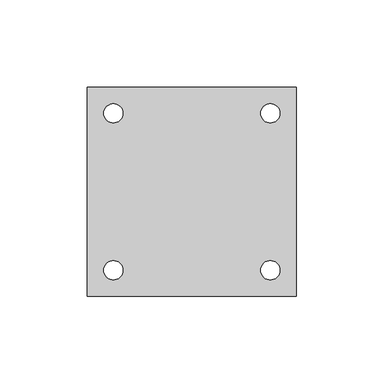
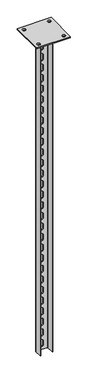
"""IFC4 building model written with IfcOpenShell, lengths in millimetres: proxy geometry, КМ Профиль_Стойка потолочная усиленная PSTU : PSTU1200."""

from ifc_helpers import new_model, si_unit, point, frame, frame_2d, origin, place, context, project, spatial, polyline, circle_curve, trimmed, segment, composite_curve, outline, extrude, source, transform, mapped, element, save
from ifc_brep_helpers import plane_surface, cylinder_surface, revolved_surface, advanced_brep


def generic_models_236f3ef3(model_context):
    return source(origin(), model_context, "Body", "SolidModel", [
        advanced_brep(
        [(22.5, -15.0, -4.0), (22.5, 11.0, -4.0), (18.5, 15.0, -4.0), (-18.5, 15.0, -4.0), (-22.5, 11.0, -4.0), (-22.5, -15.0, -4.0), (-20.5, -15.0, -4.0), (-20.5, 11.0, -4.0), (-18.5, 13.0, -4.0), (18.5, 13.0, -4.0), (20.5, 11.0, -4.0), (20.5, -15.0, -4.0), (22.5, 11.0, -1204.0), (22.5, -15.0, -1204.0), (20.5, -15.0, -1204.0), (20.5, 11.0, -1204.0), (18.5, 13.0, -1204.0), (-18.5, 13.0, -1204.0), (-20.5, 11.0, -1204.0), (-20.5, -15.0, -1204.0), (-22.5, -15.0, -1204.0), (-22.5, 11.0, -1204.0), (-18.5, 15.0, -1204.0), (18.5, 15.0, -1204.0), (-5.0, 15.0, -53.0), (-5.0, 15.0, -68.0), (5.0, 15.0, -68.0), (5.0, 15.0, -53.0), (-5.0, 15.0, -93.0), (-5.0, 15.0, -108.0), (5.0, 15.0, -108.0), (5.0, 15.0, -93.0), (-5.0, 15.0, -133.0), (-5.0, 15.0, -148.0), (5.0, 15.0, -148.0), (5.0, 15.0, -133.0), (-5.0, 15.0, -173.0), (-5.0, 15.0, -188.0), (5.0, 15.0, -188.0), (5.0, 15.0, -173.0), (-5.0, 15.0, -213.0), (-5.0, 15.0, -228.0), (5.0, 15.0, -228.0), (5.0, 15.0, -213.0), (-5.0, 15.0, -253.0), (-5.0, 15.0, -268.0), (5.0, 15.0, -268.0), (5.0, 15.0, -253.0), (-5.0, 15.0, -293.0), (-5.0, 15.0, -308.0), (5.0, 15.0, -308.0), (5.0, 15.0, -293.0), (-5.0, 15.0, -333.0), (-5.0, 15.0, -348.0), (5.0, 15.0, -348.0), (5.0, 15.0, -333.0), (-5.0, 15.0, -373.0), (-5.0, 15.0, -388.0), (5.0, 15.0, -388.0), (5.0, 15.0, -373.0), (-5.0, 15.0, -413.0), (-5.0, 15.0, -428.0), (5.0, 15.0, -428.0), (5.0, 15.0, -413.0), (-5.0, 15.0, -453.0), (-5.0, 15.0, -468.0), (5.0, 15.0, -468.0), (5.0, 15.0, -453.0), (-5.0, 15.0, -493.0), (-5.0, 15.0, -508.0), (5.0, 15.0, -508.0), (5.0, 15.0, -493.0), (-5.0, 15.0, -533.0), (-5.0, 15.0, -548.0), (5.0, 15.0, -548.0), (5.0, 15.0, -533.0), (-5.0, 15.0, -573.0), (-5.0, 15.0, -588.0), (5.0, 15.0, -588.0), (5.0, 15.0, -573.0), (-5.0, 15.0, -613.0), (-5.0, 15.0, -628.0), (5.0, 15.0, -628.0), (5.0, 15.0, -613.0), (-5.0, 15.0, -653.0), (-5.0, 15.0, -668.0), (5.0, 15.0, -668.0), (5.0, 15.0, -653.0), (-5.0, 15.0, -693.0), (-5.0, 15.0, -708.0), (5.0, 15.0, -708.0), (5.0, 15.0, -693.0), (-5.0, 15.0, -733.0), (-5.0, 15.0, -748.0), (5.0, 15.0, -748.0), (5.0, 15.0, -733.0), (-5.0, 15.0, -773.0), (-5.0, 15.0, -788.0), (5.0, 15.0, -788.0), (5.0, 15.0, -773.0), (-5.0, 15.0, -813.0), (-5.0, 15.0, -828.0), (5.0, 15.0, -828.0), (5.0, 15.0, -813.0), (-5.0, 15.0, -853.0), (-5.0, 15.0, -868.0), (5.0, 15.0, -868.0), (5.0, 15.0, -853.0), (-5.0, 15.0, -893.0), (-5.0, 15.0, -908.0), (5.0, 15.0, -908.0), (5.0, 15.0, -893.0), (-5.0, 15.0, -933.0), (-5.0, 15.0, -948.0), (5.0, 15.0, -948.0), (5.0, 15.0, -933.0), (-5.0, 15.0, -973.0), (-5.0, 15.0, -988.0), (5.0, 15.0, -988.0), (5.0, 15.0, -973.0), (-5.0, 15.0, -1013.0), (-5.0, 15.0, -1028.0), (5.0, 15.0, -1028.0), (5.0, 15.0, -1013.0), (-5.0, 15.0, -1053.0), (-5.0, 15.0, -1068.0), (5.0, 15.0, -1068.0), (5.0, 15.0, -1053.0), (-5.0, 15.0, -1093.0), (-5.0, 15.0, -1108.0), (5.0, 15.0, -1108.0), (5.0, 15.0, -1093.0), (-5.0, 15.0, -1133.0), (-5.0, 15.0, -1148.0), (5.0, 15.0, -1148.0), (5.0, 15.0, -1133.0), (-5.0, 15.0, -1173.0), (-5.0, 15.0, -1188.0), (5.0, 15.0, -1188.0), (5.0, 15.0, -1173.0), (-5.0, 15.0, -13.0), (-5.0, 15.0, -28.0), (5.0, 15.0, -28.0), (5.0, 15.0, -13.0), (-5.0, 13.0, -68.0), (-5.0, 13.0, -53.0), (5.0, 13.0, -53.0), (5.0, 13.0, -68.0), (-5.0, 13.0, -108.0), (-5.0, 13.0, -93.0), (5.0, 13.0, -93.0), (5.0, 13.0, -108.0), (-5.0, 13.0, -148.0), (-5.0, 13.0, -133.0), (5.0, 13.0, -133.0), (5.0, 13.0, -148.0), (-5.0, 13.0, -188.0), (-5.0, 13.0, -173.0), (5.0, 13.0, -173.0), (5.0, 13.0, -188.0), (-5.0, 13.0, -228.0), (-5.0, 13.0, -213.0), (5.0, 13.0, -213.0), (5.0, 13.0, -228.0), (-5.0, 13.0, -268.0), (-5.0, 13.0, -253.0), (5.0, 13.0, -253.0), (5.0, 13.0, -268.0), (-5.0, 13.0, -308.0), (-5.0, 13.0, -293.0), (5.0, 13.0, -293.0), (5.0, 13.0, -308.0), (-5.0, 13.0, -348.0), (-5.0, 13.0, -333.0), (5.0, 13.0, -333.0), (5.0, 13.0, -348.0), (-5.0, 13.0, -388.0), (-5.0, 13.0, -373.0), (5.0, 13.0, -373.0), (5.0, 13.0, -388.0), (-5.0, 13.0, -428.0), (-5.0, 13.0, -413.0), (5.0, 13.0, -413.0), (5.0, 13.0, -428.0), (-5.0, 13.0, -468.0), (-5.0, 13.0, -453.0), (5.0, 13.0, -453.0), (5.0, 13.0, -468.0), (-5.0, 13.0, -508.0), (-5.0, 13.0, -493.0), (5.0, 13.0, -493.0), (5.0, 13.0, -508.0), (-5.0, 13.0, -548.0), (-5.0, 13.0, -533.0), (5.0, 13.0, -533.0), (5.0, 13.0, -548.0), (-5.0, 13.0, -588.0), (-5.0, 13.0, -573.0), (5.0, 13.0, -573.0), (5.0, 13.0, -588.0), (-5.0, 13.0, -628.0), (-5.0, 13.0, -613.0), (5.0, 13.0, -613.0), (5.0, 13.0, -628.0), (-5.0, 13.0, -668.0), (-5.0, 13.0, -653.0), (5.0, 13.0, -653.0), (5.0, 13.0, -668.0), (-5.0, 13.0, -708.0), (-5.0, 13.0, -693.0), (5.0, 13.0, -693.0), (5.0, 13.0, -708.0), (-5.0, 13.0, -748.0), (-5.0, 13.0, -733.0), (5.0, 13.0, -733.0), (5.0, 13.0, -748.0), (-5.0, 13.0, -788.0), (-5.0, 13.0, -773.0), (5.0, 13.0, -773.0), (5.0, 13.0, -788.0), (-5.0, 13.0, -828.0), (-5.0, 13.0, -813.0), (5.0, 13.0, -813.0), (5.0, 13.0, -828.0), (-5.0, 13.0, -868.0), (-5.0, 13.0, -853.0), (5.0, 13.0, -853.0), (5.0, 13.0, -868.0), (-5.0, 13.0, -908.0), (-5.0, 13.0, -893.0), (5.0, 13.0, -893.0), (5.0, 13.0, -908.0), (-5.0, 13.0, -948.0), (-5.0, 13.0, -933.0), (5.0, 13.0, -933.0), (5.0, 13.0, -948.0), (-5.0, 13.0, -988.0), (-5.0, 13.0, -973.0), (5.0, 13.0, -973.0), (5.0, 13.0, -988.0), (-5.0, 13.0, -1028.0), (-5.0, 13.0, -1013.0), (5.0, 13.0, -1013.0), (5.0, 13.0, -1028.0), (-5.0, 13.0, -1068.0), (-5.0, 13.0, -1053.0), (5.0, 13.0, -1053.0), (5.0, 13.0, -1068.0), (-5.0, 13.0, -1108.0), (-5.0, 13.0, -1093.0), (5.0, 13.0, -1093.0), (5.0, 13.0, -1108.0), (-5.0, 13.0, -1148.0), (-5.0, 13.0, -1133.0), (5.0, 13.0, -1133.0), (5.0, 13.0, -1148.0), (-5.0, 13.0, -1188.0), (-5.0, 13.0, -1173.0), (5.0, 13.0, -1173.0), (5.0, 13.0, -1188.0), (-5.0, 13.0, -28.0), (-5.0, 13.0, -13.0), (5.0, 13.0, -13.0), (5.0, 13.0, -28.0)],
        [
            (0, 1),
            (1, 2, circle_curve(frame((18.5, 11.0, -4.0), z_axis=(0.0, 0.0, 1.0), x_axis=(1.0, 0.0, 0.0)), 4.0)),
            (2, 3),
            (3, 4, circle_curve(frame((-18.5, 11.0, -4.0), z_axis=(0.0, 0.0, 1.0), x_axis=(1.0, 0.0, 0.0)), 4.0)),
            (4, 5),
            (5, 6),
            (6, 7),
            (7, 8, circle_curve(frame((-18.5, 11.0, -4.0), z_axis=(0.0, 0.0, -1.0), x_axis=(1.0, 0.0, 0.0)), 2.0)),
            (8, 9),
            (9, 10, circle_curve(frame((18.5, 11.0, -4.0), z_axis=(0.0, 0.0, -1.0), x_axis=(1.0, 0.0, 0.0)), 2.0)),
            (10, 11),
            (11, 0),
            (12, 13),
            (13, 14),
            (14, 15),
            (15, 16, circle_curve(frame((18.5, 11.0, -1204.0), z_axis=(0.0, 0.0, 1.0), x_axis=(1.0, 0.0, 0.0)), 2.0)),
            (16, 17),
            (17, 18, circle_curve(frame((-18.5, 11.0, -1204.0), z_axis=(0.0, 0.0, 1.0), x_axis=(1.0, 0.0, 0.0)), 2.0)),
            (18, 19),
            (19, 20),
            (20, 21),
            (21, 22, circle_curve(frame((-18.5, 11.0, -1204.0), z_axis=(0.0, 0.0, -1.0), x_axis=(1.0, 0.0, 0.0)), 4.0)),
            (22, 23),
            (23, 12, circle_curve(frame((18.5, 11.0, -1204.0), z_axis=(0.0, 0.0, -1.0), x_axis=(1.0, 0.0, 0.0)), 4.0)),
            (0, 13),
            (12, 1),
            (23, 2),
            (22, 3),
            (24, 25),
            (25, 26, circle_curve(frame((0.0, 15.0, -68.0), z_axis=(0.0, -1.0, 0.0), x_axis=(0.0, 0.0, -1.0)), 5.0)),
            (26, 27),
            (27, 24, circle_curve(frame((0.0, 15.0, -53.0), z_axis=(0.0, -1.0, 0.0), x_axis=(0.0, 0.0, -1.0)), 5.0)),
            (28, 29),
            (29, 30, circle_curve(frame((0.0, 15.0, -108.0), z_axis=(0.0, -1.0, 0.0), x_axis=(0.0, 0.0, -1.0)), 5.0)),
            (30, 31),
            (31, 28, circle_curve(frame((0.0, 15.0, -93.0), z_axis=(0.0, -1.0, 0.0), x_axis=(0.0, 0.0, -1.0)), 5.0)),
            (32, 33),
            (33, 34, circle_curve(frame((0.0, 15.0, -148.0), z_axis=(0.0, -1.0, 0.0), x_axis=(0.0, 0.0, -1.0)), 5.0)),
            (34, 35),
            (35, 32, circle_curve(frame((0.0, 15.0, -133.0), z_axis=(0.0, -1.0, 0.0), x_axis=(0.0, 0.0, -1.0)), 5.0)),
            (36, 37),
            (37, 38, circle_curve(frame((0.0, 15.0, -188.0), z_axis=(0.0, -1.0, 0.0), x_axis=(0.0, 0.0, -1.0)), 5.0)),
            (38, 39),
            (39, 36, circle_curve(frame((0.0, 15.0, -173.0), z_axis=(0.0, -1.0, 0.0), x_axis=(0.0, 0.0, -1.0)), 5.0)),
            (40, 41),
            (41, 42, circle_curve(frame((0.0, 15.0, -228.0), z_axis=(0.0, -1.0, 0.0), x_axis=(0.0, 0.0, -1.0)), 5.0)),
            (42, 43),
            (43, 40, circle_curve(frame((0.0, 15.0, -213.0), z_axis=(0.0, -1.0, 0.0), x_axis=(0.0, 0.0, -1.0)), 5.0)),
            (44, 45),
            (45, 46, circle_curve(frame((0.0, 15.0, -268.0), z_axis=(0.0, -1.0, 0.0), x_axis=(0.0, 0.0, -1.0)), 5.0)),
            (46, 47),
            (47, 44, circle_curve(frame((0.0, 15.0, -253.0), z_axis=(0.0, -1.0, 0.0), x_axis=(0.0, 0.0, -1.0)), 5.0)),
            (48, 49),
            (49, 50, circle_curve(frame((0.0, 15.0, -308.0), z_axis=(0.0, -1.0, 0.0), x_axis=(0.0, 0.0, -1.0)), 5.0)),
            (50, 51),
            (51, 48, circle_curve(frame((0.0, 15.0, -293.0), z_axis=(0.0, -1.0, 0.0), x_axis=(0.0, 0.0, -1.0)), 5.0)),
            (52, 53),
            (53, 54, circle_curve(frame((0.0, 15.0, -348.0), z_axis=(0.0, -1.0, 0.0), x_axis=(0.0, 0.0, -1.0)), 5.0)),
            (54, 55),
            (55, 52, circle_curve(frame((0.0, 15.0, -333.0), z_axis=(0.0, -1.0, 0.0), x_axis=(0.0, 0.0, -1.0)), 5.0)),
            (56, 57),
            (57, 58, circle_curve(frame((0.0, 15.0, -388.0), z_axis=(0.0, -1.0, 0.0), x_axis=(0.0, 0.0, -1.0)), 5.0)),
            (58, 59),
            (59, 56, circle_curve(frame((0.0, 15.0, -373.0), z_axis=(0.0, -1.0, 0.0), x_axis=(0.0, 0.0, -1.0)), 5.0)),
            (60, 61),
            (61, 62, circle_curve(frame((0.0, 15.0, -428.0), z_axis=(0.0, -1.0, 0.0), x_axis=(0.0, 0.0, -1.0)), 5.0)),
            (62, 63),
            (63, 60, circle_curve(frame((0.0, 15.0, -413.0), z_axis=(0.0, -1.0, 0.0), x_axis=(0.0, 0.0, -1.0)), 5.0)),
            (64, 65),
            (65, 66, circle_curve(frame((0.0, 15.0, -468.0), z_axis=(0.0, -1.0, 0.0), x_axis=(0.0, 0.0, -1.0)), 5.0)),
            (66, 67),
            (67, 64, circle_curve(frame((0.0, 15.0, -453.0), z_axis=(0.0, -1.0, 0.0), x_axis=(0.0, 0.0, -1.0)), 5.0)),
            (68, 69),
            (69, 70, circle_curve(frame((0.0, 15.0, -508.0), z_axis=(0.0, -1.0, 0.0), x_axis=(0.0, 0.0, -1.0)), 5.0)),
            (70, 71),
            (71, 68, circle_curve(frame((0.0, 15.0, -493.0), z_axis=(0.0, -1.0, 0.0), x_axis=(0.0, 0.0, -1.0)), 5.0)),
            (72, 73),
            (73, 74, circle_curve(frame((0.0, 15.0, -548.0), z_axis=(0.0, -1.0, 0.0), x_axis=(0.0, 0.0, -1.0)), 5.0)),
            (74, 75),
            (75, 72, circle_curve(frame((0.0, 15.0, -533.0), z_axis=(0.0, -1.0, 0.0), x_axis=(0.0, 0.0, -1.0)), 5.0)),
            (76, 77),
            (77, 78, circle_curve(frame((0.0, 15.0, -588.0), z_axis=(0.0, -1.0, 0.0), x_axis=(0.0, 0.0, -1.0)), 5.0)),
            (78, 79),
            (79, 76, circle_curve(frame((0.0, 15.0, -573.0), z_axis=(0.0, -1.0, 0.0), x_axis=(0.0, 0.0, -1.0)), 5.0)),
            (80, 81),
            (81, 82, circle_curve(frame((0.0, 15.0, -628.0), z_axis=(0.0, -1.0, 0.0), x_axis=(0.0, 0.0, -1.0)), 5.0)),
            (82, 83),
            (83, 80, circle_curve(frame((0.0, 15.0, -613.0), z_axis=(0.0, -1.0, 0.0), x_axis=(0.0, 0.0, -1.0)), 5.0)),
            (84, 85),
            (85, 86, circle_curve(frame((0.0, 15.0, -668.0), z_axis=(0.0, -1.0, 0.0), x_axis=(0.0, 0.0, -1.0)), 5.0)),
            (86, 87),
            (87, 84, circle_curve(frame((0.0, 15.0, -653.0), z_axis=(0.0, -1.0, 0.0), x_axis=(0.0, 0.0, -1.0)), 5.0)),
            (88, 89),
            (89, 90, circle_curve(frame((0.0, 15.0, -708.0), z_axis=(0.0, -1.0, 0.0), x_axis=(0.0, 0.0, -1.0)), 5.0)),
            (90, 91),
            (91, 88, circle_curve(frame((0.0, 15.0, -693.0), z_axis=(0.0, -1.0, 0.0), x_axis=(0.0, 0.0, -1.0)), 5.0)),
            (92, 93),
            (93, 94, circle_curve(frame((0.0, 15.0, -748.0), z_axis=(0.0, -1.0, 0.0), x_axis=(0.0, 0.0, -1.0)), 5.0)),
            (94, 95),
            (95, 92, circle_curve(frame((0.0, 15.0, -733.0), z_axis=(0.0, -1.0, 0.0), x_axis=(0.0, 0.0, -1.0)), 5.0)),
            (96, 97),
            (97, 98, circle_curve(frame((0.0, 15.0, -788.0), z_axis=(0.0, -1.0, 0.0), x_axis=(0.0, 0.0, -1.0)), 5.0)),
            (98, 99),
            (99, 96, circle_curve(frame((0.0, 15.0, -773.0), z_axis=(0.0, -1.0, 0.0), x_axis=(0.0, 0.0, -1.0)), 5.0)),
            (100, 101),
            (101, 102, circle_curve(frame((0.0, 15.0, -828.0), z_axis=(0.0, -1.0, 0.0), x_axis=(0.0, 0.0, -1.0)), 5.0)),
            (102, 103),
            (103, 100, circle_curve(frame((0.0, 15.0, -813.0), z_axis=(0.0, -1.0, 0.0), x_axis=(0.0, 0.0, -1.0)), 5.0)),
            (104, 105),
            (105, 106, circle_curve(frame((0.0, 15.0, -868.0), z_axis=(0.0, -1.0, 0.0), x_axis=(0.0, 0.0, -1.0)), 5.0)),
            (106, 107),
            (107, 104, circle_curve(frame((0.0, 15.0, -853.0), z_axis=(0.0, -1.0, 0.0), x_axis=(0.0, 0.0, -1.0)), 5.0)),
            (108, 109),
            (109, 110, circle_curve(frame((0.0, 15.0, -908.0), z_axis=(0.0, -1.0, 0.0), x_axis=(0.0, 0.0, -1.0)), 5.0)),
            (110, 111),
            (111, 108, circle_curve(frame((0.0, 15.0, -893.0), z_axis=(0.0, -1.0, 0.0), x_axis=(0.0, 0.0, -1.0)), 5.0)),
            (112, 113),
            (113, 114, circle_curve(frame((0.0, 15.0, -948.0), z_axis=(0.0, -1.0, 0.0), x_axis=(0.0, 0.0, -1.0)), 5.0)),
            (114, 115),
            (115, 112, circle_curve(frame((0.0, 15.0, -933.0), z_axis=(0.0, -1.0, 0.0), x_axis=(0.0, 0.0, -1.0)), 5.0)),
            (116, 117),
            (117, 118, circle_curve(frame((0.0, 15.0, -988.0), z_axis=(0.0, -1.0, 0.0), x_axis=(0.0, 0.0, -1.0)), 5.0)),
            (118, 119),
            (119, 116, circle_curve(frame((0.0, 15.0, -973.0), z_axis=(0.0, -1.0, 0.0), x_axis=(0.0, 0.0, -1.0)), 5.0)),
            (120, 121),
            (121, 122, circle_curve(frame((0.0, 15.0, -1028.0), z_axis=(0.0, -1.0, 0.0), x_axis=(0.0, 0.0, -1.0)), 5.0)),
            (122, 123),
            (123, 120, circle_curve(frame((0.0, 15.0, -1013.0), z_axis=(0.0, -1.0, 0.0), x_axis=(0.0, 0.0, -1.0)), 5.0)),
            (124, 125),
            (125, 126, circle_curve(frame((0.0, 15.0, -1068.0), z_axis=(0.0, -1.0, 0.0), x_axis=(0.0, 0.0, -1.0)), 5.0)),
            (126, 127),
            (127, 124, circle_curve(frame((0.0, 15.0, -1053.0), z_axis=(0.0, -1.0, 0.0), x_axis=(0.0, 0.0, -1.0)), 5.0)),
            (128, 129),
            (129, 130, circle_curve(frame((0.0, 15.0, -1108.0), z_axis=(0.0, -1.0, 0.0), x_axis=(0.0, 0.0, -1.0)), 5.0)),
            (130, 131),
            (131, 128, circle_curve(frame((0.0, 15.0, -1093.0), z_axis=(0.0, -1.0, 0.0), x_axis=(0.0, 0.0, -1.0)), 5.0)),
            (132, 133),
            (133, 134, circle_curve(frame((0.0, 15.0, -1148.0), z_axis=(0.0, -1.0, 0.0), x_axis=(0.0, 0.0, -1.0)), 5.0)),
            (134, 135),
            (135, 132, circle_curve(frame((0.0, 15.0, -1133.0), z_axis=(0.0, -1.0, 0.0), x_axis=(0.0, 0.0, -1.0)), 5.0)),
            (136, 137),
            (137, 138, circle_curve(frame((0.0, 15.0, -1188.0), z_axis=(0.0, -1.0, 0.0), x_axis=(0.0, 0.0, -1.0)), 5.0)),
            (138, 139),
            (139, 136, circle_curve(frame((0.0, 15.0, -1173.0), z_axis=(0.0, -1.0, 0.0), x_axis=(0.0, 0.0, -1.0)), 5.0)),
            (140, 141),
            (141, 142, circle_curve(frame((0.0, 15.0, -28.0), z_axis=(0.0, -1.0, 0.0), x_axis=(0.0, 0.0, -1.0)), 5.0)),
            (142, 143),
            (143, 140, circle_curve(frame((0.0, 15.0, -13.0), z_axis=(0.0, -1.0, 0.0), x_axis=(0.0, 0.0, -1.0)), 5.0)),
            (21, 4),
            (20, 5),
            (19, 6),
            (18, 7),
            (17, 8),
            (16, 9),
            (144, 145),
            (145, 146, circle_curve(frame((0.0, 13.0, -53.0), z_axis=(0.0, 1.0, 0.0), x_axis=(0.0, 0.0, -1.0)), 5.0)),
            (146, 147),
            (147, 144, circle_curve(frame((0.0, 13.0, -68.0), z_axis=(0.0, 1.0, 0.0), x_axis=(0.0, 0.0, -1.0)), 5.0)),
            (148, 149),
            (149, 150, circle_curve(frame((0.0, 13.0, -93.0), z_axis=(0.0, 1.0, 0.0), x_axis=(0.0, 0.0, -1.0)), 5.0)),
            (150, 151),
            (151, 148, circle_curve(frame((0.0, 13.0, -108.0), z_axis=(0.0, 1.0, 0.0), x_axis=(0.0, 0.0, -1.0)), 5.0)),
            (152, 153),
            (153, 154, circle_curve(frame((0.0, 13.0, -133.0), z_axis=(0.0, 1.0, 0.0), x_axis=(0.0, 0.0, -1.0)), 5.0)),
            (154, 155),
            (155, 152, circle_curve(frame((0.0, 13.0, -148.0), z_axis=(0.0, 1.0, 0.0), x_axis=(0.0, 0.0, -1.0)), 5.0)),
            (156, 157),
            (157, 158, circle_curve(frame((0.0, 13.0, -173.0), z_axis=(0.0, 1.0, 0.0), x_axis=(0.0, 0.0, -1.0)), 5.0)),
            (158, 159),
            (159, 156, circle_curve(frame((0.0, 13.0, -188.0), z_axis=(0.0, 1.0, 0.0), x_axis=(0.0, 0.0, -1.0)), 5.0)),
            (160, 161),
            (161, 162, circle_curve(frame((0.0, 13.0, -213.0), z_axis=(0.0, 1.0, 0.0), x_axis=(0.0, 0.0, -1.0)), 5.0)),
            (162, 163),
            (163, 160, circle_curve(frame((0.0, 13.0, -228.0), z_axis=(0.0, 1.0, 0.0), x_axis=(0.0, 0.0, -1.0)), 5.0)),
            (164, 165),
            (165, 166, circle_curve(frame((0.0, 13.0, -253.0), z_axis=(0.0, 1.0, 0.0), x_axis=(0.0, 0.0, -1.0)), 5.0)),
            (166, 167),
            (167, 164, circle_curve(frame((0.0, 13.0, -268.0), z_axis=(0.0, 1.0, 0.0), x_axis=(0.0, 0.0, -1.0)), 5.0)),
            (168, 169),
            (169, 170, circle_curve(frame((0.0, 13.0, -293.0), z_axis=(0.0, 1.0, 0.0), x_axis=(0.0, 0.0, -1.0)), 5.0)),
            (170, 171),
            (171, 168, circle_curve(frame((0.0, 13.0, -308.0), z_axis=(0.0, 1.0, 0.0), x_axis=(0.0, 0.0, -1.0)), 5.0)),
            (172, 173),
            (173, 174, circle_curve(frame((0.0, 13.0, -333.0), z_axis=(0.0, 1.0, 0.0), x_axis=(0.0, 0.0, -1.0)), 5.0)),
            (174, 175),
            (175, 172, circle_curve(frame((0.0, 13.0, -348.0), z_axis=(0.0, 1.0, 0.0), x_axis=(0.0, 0.0, -1.0)), 5.0)),
            (176, 177),
            (177, 178, circle_curve(frame((0.0, 13.0, -373.0), z_axis=(0.0, 1.0, 0.0), x_axis=(0.0, 0.0, -1.0)), 5.0)),
            (178, 179),
            (179, 176, circle_curve(frame((0.0, 13.0, -388.0), z_axis=(0.0, 1.0, 0.0), x_axis=(0.0, 0.0, -1.0)), 5.0)),
            (180, 181),
            (181, 182, circle_curve(frame((0.0, 13.0, -413.0), z_axis=(0.0, 1.0, 0.0), x_axis=(0.0, 0.0, -1.0)), 5.0)),
            (182, 183),
            (183, 180, circle_curve(frame((0.0, 13.0, -428.0), z_axis=(0.0, 1.0, 0.0), x_axis=(0.0, 0.0, -1.0)), 5.0)),
            (184, 185),
            (185, 186, circle_curve(frame((0.0, 13.0, -453.0), z_axis=(0.0, 1.0, 0.0), x_axis=(0.0, 0.0, -1.0)), 5.0)),
            (186, 187),
            (187, 184, circle_curve(frame((0.0, 13.0, -468.0), z_axis=(0.0, 1.0, 0.0), x_axis=(0.0, 0.0, -1.0)), 5.0)),
            (188, 189),
            (189, 190, circle_curve(frame((0.0, 13.0, -493.0), z_axis=(0.0, 1.0, 0.0), x_axis=(0.0, 0.0, -1.0)), 5.0)),
            (190, 191),
            (191, 188, circle_curve(frame((0.0, 13.0, -508.0), z_axis=(0.0, 1.0, 0.0), x_axis=(0.0, 0.0, -1.0)), 5.0)),
            (192, 193),
            (193, 194, circle_curve(frame((0.0, 13.0, -533.0), z_axis=(0.0, 1.0, 0.0), x_axis=(0.0, 0.0, -1.0)), 5.0)),
            (194, 195),
            (195, 192, circle_curve(frame((0.0, 13.0, -548.0), z_axis=(0.0, 1.0, 0.0), x_axis=(0.0, 0.0, -1.0)), 5.0)),
            (196, 197),
            (197, 198, circle_curve(frame((0.0, 13.0, -573.0), z_axis=(0.0, 1.0, 0.0), x_axis=(0.0, 0.0, -1.0)), 5.0)),
            (198, 199),
            (199, 196, circle_curve(frame((0.0, 13.0, -588.0), z_axis=(0.0, 1.0, 0.0), x_axis=(0.0, 0.0, -1.0)), 5.0)),
            (200, 201),
            (201, 202, circle_curve(frame((0.0, 13.0, -613.0), z_axis=(0.0, 1.0, 0.0), x_axis=(0.0, 0.0, -1.0)), 5.0)),
            (202, 203),
            (203, 200, circle_curve(frame((0.0, 13.0, -628.0), z_axis=(0.0, 1.0, 0.0), x_axis=(0.0, 0.0, -1.0)), 5.0)),
            (204, 205),
            (205, 206, circle_curve(frame((0.0, 13.0, -653.0), z_axis=(0.0, 1.0, 0.0), x_axis=(0.0, 0.0, -1.0)), 5.0)),
            (206, 207),
            (207, 204, circle_curve(frame((0.0, 13.0, -668.0), z_axis=(0.0, 1.0, 0.0), x_axis=(0.0, 0.0, -1.0)), 5.0)),
            (208, 209),
            (209, 210, circle_curve(frame((0.0, 13.0, -693.0), z_axis=(0.0, 1.0, 0.0), x_axis=(0.0, 0.0, -1.0)), 5.0)),
            (210, 211),
            (211, 208, circle_curve(frame((0.0, 13.0, -708.0), z_axis=(0.0, 1.0, 0.0), x_axis=(0.0, 0.0, -1.0)), 5.0)),
            (212, 213),
            (213, 214, circle_curve(frame((0.0, 13.0, -733.0), z_axis=(0.0, 1.0, 0.0), x_axis=(0.0, 0.0, -1.0)), 5.0)),
            (214, 215),
            (215, 212, circle_curve(frame((0.0, 13.0, -748.0), z_axis=(0.0, 1.0, 0.0), x_axis=(0.0, 0.0, -1.0)), 5.0)),
            (216, 217),
            (217, 218, circle_curve(frame((0.0, 13.0, -773.0), z_axis=(0.0, 1.0, 0.0), x_axis=(0.0, 0.0, -1.0)), 5.0)),
            (218, 219),
            (219, 216, circle_curve(frame((0.0, 13.0, -788.0), z_axis=(0.0, 1.0, 0.0), x_axis=(0.0, 0.0, -1.0)), 5.0)),
            (220, 221),
            (221, 222, circle_curve(frame((0.0, 13.0, -813.0), z_axis=(0.0, 1.0, 0.0), x_axis=(0.0, 0.0, -1.0)), 5.0)),
            (222, 223),
            (223, 220, circle_curve(frame((0.0, 13.0, -828.0), z_axis=(0.0, 1.0, 0.0), x_axis=(0.0, 0.0, -1.0)), 5.0)),
            (224, 225),
            (225, 226, circle_curve(frame((0.0, 13.0, -853.0), z_axis=(0.0, 1.0, 0.0), x_axis=(0.0, 0.0, -1.0)), 5.0)),
            (226, 227),
            (227, 224, circle_curve(frame((0.0, 13.0, -868.0), z_axis=(0.0, 1.0, 0.0), x_axis=(0.0, 0.0, -1.0)), 5.0)),
            (228, 229),
            (229, 230, circle_curve(frame((0.0, 13.0, -893.0), z_axis=(0.0, 1.0, 0.0), x_axis=(0.0, 0.0, -1.0)), 5.0)),
            (230, 231),
            (231, 228, circle_curve(frame((0.0, 13.0, -908.0), z_axis=(0.0, 1.0, 0.0), x_axis=(0.0, 0.0, -1.0)), 5.0)),
            (232, 233),
            (233, 234, circle_curve(frame((0.0, 13.0, -933.0), z_axis=(0.0, 1.0, 0.0), x_axis=(0.0, 0.0, -1.0)), 5.0)),
            (234, 235),
            (235, 232, circle_curve(frame((0.0, 13.0, -948.0), z_axis=(0.0, 1.0, 0.0), x_axis=(0.0, 0.0, -1.0)), 5.0)),
            (236, 237),
            (237, 238, circle_curve(frame((0.0, 13.0, -973.0), z_axis=(0.0, 1.0, 0.0), x_axis=(0.0, 0.0, -1.0)), 5.0)),
            (238, 239),
            (239, 236, circle_curve(frame((0.0, 13.0, -988.0), z_axis=(0.0, 1.0, 0.0), x_axis=(0.0, 0.0, -1.0)), 5.0)),
            (240, 241),
            (241, 242, circle_curve(frame((0.0, 13.0, -1013.0), z_axis=(0.0, 1.0, 0.0), x_axis=(0.0, 0.0, -1.0)), 5.0)),
            (242, 243),
            (243, 240, circle_curve(frame((0.0, 13.0, -1028.0), z_axis=(0.0, 1.0, 0.0), x_axis=(0.0, 0.0, -1.0)), 5.0)),
            (244, 245),
            (245, 246, circle_curve(frame((0.0, 13.0, -1053.0), z_axis=(0.0, 1.0, 0.0), x_axis=(0.0, 0.0, -1.0)), 5.0)),
            (246, 247),
            (247, 244, circle_curve(frame((0.0, 13.0, -1068.0), z_axis=(0.0, 1.0, 0.0), x_axis=(0.0, 0.0, -1.0)), 5.0)),
            (248, 249),
            (249, 250, circle_curve(frame((0.0, 13.0, -1093.0), z_axis=(0.0, 1.0, 0.0), x_axis=(0.0, 0.0, -1.0)), 5.0)),
            (250, 251),
            (251, 248, circle_curve(frame((0.0, 13.0, -1108.0), z_axis=(0.0, 1.0, 0.0), x_axis=(0.0, 0.0, -1.0)), 5.0)),
            (252, 253),
            (253, 254, circle_curve(frame((0.0, 13.0, -1133.0), z_axis=(0.0, 1.0, 0.0), x_axis=(0.0, 0.0, -1.0)), 5.0)),
            (254, 255),
            (255, 252, circle_curve(frame((0.0, 13.0, -1148.0), z_axis=(0.0, 1.0, 0.0), x_axis=(0.0, 0.0, -1.0)), 5.0)),
            (256, 257),
            (257, 258, circle_curve(frame((0.0, 13.0, -1173.0), z_axis=(0.0, 1.0, 0.0), x_axis=(0.0, 0.0, -1.0)), 5.0)),
            (258, 259),
            (259, 256, circle_curve(frame((0.0, 13.0, -1188.0), z_axis=(0.0, 1.0, 0.0), x_axis=(0.0, 0.0, -1.0)), 5.0)),
            (260, 261),
            (261, 262, circle_curve(frame((0.0, 13.0, -13.0), z_axis=(0.0, 1.0, 0.0), x_axis=(0.0, 0.0, -1.0)), 5.0)),
            (262, 263),
            (263, 260, circle_curve(frame((0.0, 13.0, -28.0), z_axis=(0.0, 1.0, 0.0), x_axis=(0.0, 0.0, -1.0)), 5.0)),
            (15, 10),
            (14, 11),
            (24, 145),
            (144, 25),
            (27, 146),
            (26, 147),
            (28, 149),
            (148, 29),
            (31, 150),
            (30, 151),
            (32, 153),
            (152, 33),
            (35, 154),
            (34, 155),
            (36, 157),
            (156, 37),
            (39, 158),
            (38, 159),
            (40, 161),
            (160, 41),
            (43, 162),
            (42, 163),
            (44, 165),
            (164, 45),
            (47, 166),
            (46, 167),
            (48, 169),
            (168, 49),
            (51, 170),
            (50, 171),
            (52, 173),
            (172, 53),
            (55, 174),
            (54, 175),
            (56, 177),
            (176, 57),
            (59, 178),
            (58, 179),
            (60, 181),
            (180, 61),
            (63, 182),
            (62, 183),
            (64, 185),
            (184, 65),
            (67, 186),
            (66, 187),
            (68, 189),
            (188, 69),
            (71, 190),
            (70, 191),
            (72, 193),
            (192, 73),
            (75, 194),
            (74, 195),
            (76, 197),
            (196, 77),
            (79, 198),
            (78, 199),
            (80, 201),
            (200, 81),
            (83, 202),
            (82, 203),
            (84, 205),
            (204, 85),
            (87, 206),
            (86, 207),
            (88, 209),
            (208, 89),
            (91, 210),
            (90, 211),
            (92, 213),
            (212, 93),
            (95, 214),
            (94, 215),
            (96, 217),
            (216, 97),
            (99, 218),
            (98, 219),
            (100, 221),
            (220, 101),
            (103, 222),
            (102, 223),
            (104, 225),
            (224, 105),
            (107, 226),
            (106, 227),
            (108, 229),
            (228, 109),
            (111, 230),
            (110, 231),
            (112, 233),
            (232, 113),
            (115, 234),
            (114, 235),
            (116, 237),
            (236, 117),
            (119, 238),
            (118, 239),
            (120, 241),
            (240, 121),
            (123, 242),
            (122, 243),
            (124, 245),
            (244, 125),
            (127, 246),
            (126, 247),
            (128, 249),
            (248, 129),
            (131, 250),
            (130, 251),
            (132, 253),
            (252, 133),
            (135, 254),
            (134, 255),
            (136, 257),
            (256, 137),
            (139, 258),
            (138, 259),
            (140, 261),
            (260, 141),
            (143, 262),
            (142, 263),
        ],
        [
            plane_surface(frame((22.5, 11.0, -4.0), z_axis=(0.0, 0.0, 1.0), x_axis=(0.0, 1.0, 0.0))),
            plane_surface(frame((22.5, 11.0, -1204.0), z_axis=(0.0, 0.0, -1.0), x_axis=(0.0, -1.0, 0.0))),
            plane_surface(frame((22.5, -15.0, -4.0), z_axis=(1.0, 0.0, 0.0), x_axis=(0.0, 0.0, -1.0))),
            cylinder_surface(frame((18.5, 11.0, -1204.0), z_axis=(0.0, 0.0, 1.0), x_axis=(1.0, 0.0, 0.0)), 4.0),
            plane_surface(frame((18.5, 15.0, -4.0), z_axis=(0.0, 1.0, 0.0), x_axis=(0.0, 0.0, -1.0))),
            cylinder_surface(frame((-18.5, 11.0, -1204.0), z_axis=(0.0, 0.0, 1.0), x_axis=(1.0, 0.0, 0.0)), 4.0),
            plane_surface(frame((-22.5, 11.0, -4.0), z_axis=(-1.0, 0.0, 0.0), x_axis=(0.0, 0.0, -1.0))),
            plane_surface(frame((-22.5, -15.0, -4.0), z_axis=(0.0, -1.0, 0.0), x_axis=(0.0, 0.0, -1.0))),
            plane_surface(frame((-20.5, -15.0, -4.0), z_axis=(1.0, 0.0, 0.0), x_axis=(0.0, 0.0, -1.0))),
            revolved_surface(polyline([(-16.5, 11.0, -1204.0), (-16.5, 11.0, -4.0)]), (-18.5, 11.0, -1204.0), (0.0, 0.0, -1.0)),
            plane_surface(frame((-18.5, 13.0, -4.0), z_axis=(0.0, -1.0, 0.0), x_axis=(0.0, 0.0, -1.0))),
            revolved_surface(polyline([(20.5, 11.0, -1204.0), (20.5, 11.0, -4.0)]), (18.5, 11.0, -1204.0), (0.0, 0.0, -1.0)),
            plane_surface(frame((20.5, 11.0, -4.0), z_axis=(-1.0, 0.0, 0.0), x_axis=(0.0, 0.0, -1.0))),
            plane_surface(frame((20.5, -15.0, -4.0), z_axis=(0.0, -1.0, 0.0), x_axis=(0.0, 0.0, -1.0))),
            plane_surface(frame((-5.0, 15.0, -68.0), z_axis=(1.0, 0.0, 0.0), x_axis=(0.0, -1.0, 0.0))),
            revolved_surface(polyline([(0.0, 15.0, -58.0), (0.0, 13.0, -58.0)]), (0.0, 13.0, -53.0), (0.0, 1.0, 0.0)),
            plane_surface(frame((5.0, 15.0, -53.0), z_axis=(-1.0, 0.0, 0.0), x_axis=(0.0, -1.0, 0.0))),
            revolved_surface(polyline([(0.0, 15.0, -73.0), (0.0, 13.0, -73.0)]), (0.0, 13.0, -68.0), (0.0, 1.0, 0.0)),
            plane_surface(frame((-5.0, 15.0, -108.0), z_axis=(1.0, 0.0, 0.0), x_axis=(0.0, -1.0, 0.0))),
            revolved_surface(polyline([(0.0, 15.0, -98.0), (0.0, 13.0, -98.0)]), (0.0, 13.0, -93.0), (0.0, 1.0, 0.0)),
            plane_surface(frame((5.0, 15.0, -93.0), z_axis=(-1.0, 0.0, 0.0), x_axis=(0.0, -1.0, 0.0))),
            revolved_surface(polyline([(0.0, 15.0, -113.0), (0.0, 13.0, -113.0)]), (0.0, 13.0, -108.0), (0.0, 1.0, 0.0)),
            plane_surface(frame((-5.0, 15.0, -148.0), z_axis=(1.0, 0.0, 0.0), x_axis=(0.0, -1.0, 0.0))),
            revolved_surface(polyline([(0.0, 15.0, -138.0), (0.0, 13.0, -138.0)]), (0.0, 13.0, -133.0), (0.0, 1.0, 0.0)),
            plane_surface(frame((5.0, 15.0, -133.0), z_axis=(-1.0, 0.0, 0.0), x_axis=(0.0, -1.0, 0.0))),
            revolved_surface(polyline([(0.0, 15.0, -153.0), (0.0, 13.0, -153.0)]), (0.0, 13.0, -148.0), (0.0, 1.0, 0.0)),
            plane_surface(frame((-5.0, 15.0, -188.0), z_axis=(1.0, 0.0, 0.0), x_axis=(0.0, -1.0, 0.0))),
            revolved_surface(polyline([(0.0, 15.0, -178.0), (0.0, 13.0, -178.0)]), (0.0, 13.0, -173.0), (0.0, 1.0, 0.0)),
            plane_surface(frame((5.0, 15.0, -173.0), z_axis=(-1.0, 0.0, 0.0), x_axis=(0.0, -1.0, 0.0))),
            revolved_surface(polyline([(0.0, 15.0, -193.0), (0.0, 13.0, -193.0)]), (0.0, 13.0, -188.0), (0.0, 1.0, 0.0)),
            plane_surface(frame((-5.0, 15.0, -228.0), z_axis=(1.0, 0.0, 0.0), x_axis=(0.0, -1.0, 0.0))),
            revolved_surface(polyline([(0.0, 15.0, -218.0), (0.0, 13.0, -218.0)]), (0.0, 13.0, -213.0), (0.0, 1.0, 0.0)),
            plane_surface(frame((5.0, 15.0, -213.0), z_axis=(-1.0, 0.0, 0.0), x_axis=(0.0, -1.0, 0.0))),
            revolved_surface(polyline([(0.0, 15.0, -233.0), (0.0, 13.0, -233.0)]), (0.0, 13.0, -228.0), (0.0, 1.0, 0.0)),
            plane_surface(frame((-5.0, 15.0, -268.0), z_axis=(1.0, 0.0, 0.0), x_axis=(0.0, -1.0, 0.0))),
            revolved_surface(polyline([(0.0, 15.0, -258.0), (0.0, 13.0, -258.0)]), (0.0, 13.0, -253.0), (0.0, 1.0, 0.0)),
            plane_surface(frame((5.0, 15.0, -253.0), z_axis=(-1.0, 0.0, 0.0), x_axis=(0.0, -1.0, 0.0))),
            revolved_surface(polyline([(0.0, 15.0, -273.0), (0.0, 13.0, -273.0)]), (0.0, 13.0, -268.0), (0.0, 1.0, 0.0)),
            plane_surface(frame((-5.0, 15.0, -308.0), z_axis=(1.0, 0.0, 0.0), x_axis=(0.0, -1.0, 0.0))),
            revolved_surface(polyline([(0.0, 15.0, -298.0), (0.0, 13.0, -298.0)]), (0.0, 13.0, -293.0), (0.0, 1.0, 0.0)),
            plane_surface(frame((5.0, 15.0, -293.0), z_axis=(-1.0, 0.0, 0.0), x_axis=(0.0, -1.0, 0.0))),
            revolved_surface(polyline([(0.0, 15.0, -313.0), (0.0, 13.0, -313.0)]), (0.0, 13.0, -308.0), (0.0, 1.0, 0.0)),
            plane_surface(frame((-5.0, 15.0, -348.0), z_axis=(1.0, 0.0, 0.0), x_axis=(0.0, -1.0, 0.0))),
            revolved_surface(polyline([(0.0, 15.0, -338.0), (0.0, 13.0, -338.0)]), (0.0, 13.0, -333.0), (0.0, 1.0, 0.0)),
            plane_surface(frame((5.0, 15.0, -333.0), z_axis=(-1.0, 0.0, 0.0), x_axis=(0.0, -1.0, 0.0))),
            revolved_surface(polyline([(0.0, 15.0, -353.0), (0.0, 13.0, -353.0)]), (0.0, 13.0, -348.0), (0.0, 1.0, 0.0)),
            plane_surface(frame((-5.0, 15.0, -388.0), z_axis=(1.0, 0.0, 0.0), x_axis=(0.0, -1.0, 0.0))),
            revolved_surface(polyline([(0.0, 15.0, -378.0), (0.0, 13.0, -378.0)]), (0.0, 13.0, -373.0), (0.0, 1.0, 0.0)),
            plane_surface(frame((5.0, 15.0, -373.0), z_axis=(-1.0, 0.0, 0.0), x_axis=(0.0, -1.0, 0.0))),
            revolved_surface(polyline([(0.0, 15.0, -393.0), (0.0, 13.0, -393.0)]), (0.0, 13.0, -388.0), (0.0, 1.0, 0.0)),
            plane_surface(frame((-5.0, 15.0, -428.0), z_axis=(1.0, 0.0, 0.0), x_axis=(0.0, -1.0, 0.0))),
            revolved_surface(polyline([(0.0, 15.0, -418.0), (0.0, 13.0, -418.0)]), (0.0, 13.0, -413.0), (0.0, 1.0, 0.0)),
            plane_surface(frame((5.0, 15.0, -413.0), z_axis=(-1.0, 0.0, 0.0), x_axis=(0.0, -1.0, 0.0))),
            revolved_surface(polyline([(0.0, 15.0, -433.0), (0.0, 13.0, -433.0)]), (0.0, 13.0, -428.0), (0.0, 1.0, 0.0)),
            plane_surface(frame((-5.0, 15.0, -468.0), z_axis=(1.0, 0.0, 0.0), x_axis=(0.0, -1.0, 0.0))),
            revolved_surface(polyline([(0.0, 15.0, -458.0), (0.0, 13.0, -458.0)]), (0.0, 13.0, -453.0), (0.0, 1.0, 0.0)),
            plane_surface(frame((5.0, 15.0, -453.0), z_axis=(-1.0, 0.0, 0.0), x_axis=(0.0, -1.0, 0.0))),
            revolved_surface(polyline([(0.0, 15.0, -473.0), (0.0, 13.0, -473.0)]), (0.0, 13.0, -468.0), (0.0, 1.0, 0.0)),
            plane_surface(frame((-5.0, 15.0, -508.0), z_axis=(1.0, 0.0, 0.0), x_axis=(0.0, -1.0, 0.0))),
            revolved_surface(polyline([(0.0, 15.0, -498.0), (0.0, 13.0, -498.0)]), (0.0, 13.0, -493.0), (0.0, 1.0, 0.0)),
            plane_surface(frame((5.0, 15.0, -493.0), z_axis=(-1.0, 0.0, 0.0), x_axis=(0.0, -1.0, 0.0))),
            revolved_surface(polyline([(0.0, 15.0, -513.0), (0.0, 13.0, -513.0)]), (0.0, 13.0, -508.0), (0.0, 1.0, 0.0)),
            plane_surface(frame((-5.0, 15.0, -548.0), z_axis=(1.0, 0.0, 0.0), x_axis=(0.0, -1.0, 0.0))),
            revolved_surface(polyline([(0.0, 15.0, -538.0), (0.0, 13.0, -538.0)]), (0.0, 13.0, -533.0), (0.0, 1.0, 0.0)),
            plane_surface(frame((5.0, 15.0, -533.0), z_axis=(-1.0, 0.0, 0.0), x_axis=(0.0, -1.0, 0.0))),
            revolved_surface(polyline([(0.0, 15.0, -553.0), (0.0, 13.0, -553.0)]), (0.0, 13.0, -548.0), (0.0, 1.0, 0.0)),
            plane_surface(frame((-5.0, 15.0, -588.0), z_axis=(1.0, 0.0, 0.0), x_axis=(0.0, -1.0, 0.0))),
            revolved_surface(polyline([(0.0, 15.0, -578.0), (0.0, 13.0, -578.0)]), (0.0, 13.0, -573.0), (0.0, 1.0, 0.0)),
            plane_surface(frame((5.0, 15.0, -573.0), z_axis=(-1.0, 0.0, 0.0), x_axis=(0.0, -1.0, 0.0))),
            revolved_surface(polyline([(0.0, 15.0, -593.0), (0.0, 13.0, -593.0)]), (0.0, 13.0, -588.0), (0.0, 1.0, 0.0)),
            plane_surface(frame((-5.0, 15.0, -628.0), z_axis=(1.0, 0.0, 0.0), x_axis=(0.0, -1.0, 0.0))),
            revolved_surface(polyline([(0.0, 15.0, -618.0), (0.0, 13.0, -618.0)]), (0.0, 13.0, -613.0), (0.0, 1.0, 0.0)),
            plane_surface(frame((5.0, 15.0, -613.0), z_axis=(-1.0, 0.0, 0.0), x_axis=(0.0, -1.0, 0.0))),
            revolved_surface(polyline([(0.0, 15.0, -633.0), (0.0, 13.0, -633.0)]), (0.0, 13.0, -628.0), (0.0, 1.0, 0.0)),
            plane_surface(frame((-5.0, 15.0, -668.0), z_axis=(1.0, 0.0, 0.0), x_axis=(0.0, -1.0, 0.0))),
            revolved_surface(polyline([(0.0, 15.0, -658.0), (0.0, 13.0, -658.0)]), (0.0, 13.0, -653.0), (0.0, 1.0, 0.0)),
            plane_surface(frame((5.0, 15.0, -653.0), z_axis=(-1.0, 0.0, 0.0), x_axis=(0.0, -1.0, 0.0))),
            revolved_surface(polyline([(0.0, 15.0, -673.0), (0.0, 13.0, -673.0)]), (0.0, 13.0, -668.0), (0.0, 1.0, 0.0)),
            plane_surface(frame((-5.0, 15.0, -708.0), z_axis=(1.0, 0.0, 0.0), x_axis=(0.0, -1.0, 0.0))),
            revolved_surface(polyline([(0.0, 15.0, -698.0), (0.0, 13.0, -698.0)]), (0.0, 13.0, -693.0), (0.0, 1.0, 0.0)),
            plane_surface(frame((5.0, 15.0, -693.0), z_axis=(-1.0, 0.0, 0.0), x_axis=(0.0, -1.0, 0.0))),
            revolved_surface(polyline([(0.0, 15.0, -713.0), (0.0, 13.0, -713.0)]), (0.0, 13.0, -708.0), (0.0, 1.0, 0.0)),
            plane_surface(frame((-5.0, 15.0, -748.0), z_axis=(1.0, 0.0, 0.0), x_axis=(0.0, -1.0, 0.0))),
            revolved_surface(polyline([(0.0, 15.0, -738.0), (0.0, 13.0, -738.0)]), (0.0, 13.0, -733.0), (0.0, 1.0, 0.0)),
            plane_surface(frame((5.0, 15.0, -733.0), z_axis=(-1.0, 0.0, 0.0), x_axis=(0.0, -1.0, 0.0))),
            revolved_surface(polyline([(0.0, 15.0, -753.0), (0.0, 13.0, -753.0)]), (0.0, 13.0, -748.0), (0.0, 1.0, 0.0)),
            plane_surface(frame((-5.0, 15.0, -788.0), z_axis=(1.0, 0.0, 0.0), x_axis=(0.0, -1.0, 0.0))),
            revolved_surface(polyline([(0.0, 15.0, -778.0), (0.0, 13.0, -778.0)]), (0.0, 13.0, -773.0), (0.0, 1.0, 0.0)),
            plane_surface(frame((5.0, 15.0, -773.0), z_axis=(-1.0, 0.0, 0.0), x_axis=(0.0, -1.0, 0.0))),
            revolved_surface(polyline([(0.0, 15.0, -793.0), (0.0, 13.0, -793.0)]), (0.0, 13.0, -788.0), (0.0, 1.0, 0.0)),
            plane_surface(frame((-5.0, 15.0, -828.0), z_axis=(1.0, 0.0, 0.0), x_axis=(0.0, -1.0, 0.0))),
            revolved_surface(polyline([(0.0, 15.0, -818.0), (0.0, 13.0, -818.0)]), (0.0, 13.0, -813.0), (0.0, 1.0, 0.0)),
            plane_surface(frame((5.0, 15.0, -813.0), z_axis=(-1.0, 0.0, 0.0), x_axis=(0.0, -1.0, 0.0))),
            revolved_surface(polyline([(0.0, 15.0, -833.0), (0.0, 13.0, -833.0)]), (0.0, 13.0, -828.0), (0.0, 1.0, 0.0)),
            plane_surface(frame((-5.0, 15.0, -868.0), z_axis=(1.0, 0.0, 0.0), x_axis=(0.0, -1.0, 0.0))),
            revolved_surface(polyline([(0.0, 15.0, -858.0), (0.0, 13.0, -858.0)]), (0.0, 13.0, -853.0), (0.0, 1.0, 0.0)),
            plane_surface(frame((5.0, 15.0, -853.0), z_axis=(-1.0, 0.0, 0.0), x_axis=(0.0, -1.0, 0.0))),
            revolved_surface(polyline([(0.0, 15.0, -873.0), (0.0, 13.0, -873.0)]), (0.0, 13.0, -868.0), (0.0, 1.0, 0.0)),
            plane_surface(frame((-5.0, 15.0, -908.0), z_axis=(1.0, 0.0, 0.0), x_axis=(0.0, -1.0, 0.0))),
            revolved_surface(polyline([(0.0, 15.0, -898.0), (0.0, 13.0, -898.0)]), (0.0, 13.0, -893.0), (0.0, 1.0, 0.0)),
            plane_surface(frame((5.0, 15.0, -893.0), z_axis=(-1.0, 0.0, 0.0), x_axis=(0.0, -1.0, 0.0))),
            revolved_surface(polyline([(0.0, 15.0, -913.0), (0.0, 13.0, -913.0)]), (0.0, 13.0, -908.0), (0.0, 1.0, 0.0)),
            plane_surface(frame((-5.0, 15.0, -948.0), z_axis=(1.0, 0.0, 0.0), x_axis=(0.0, -1.0, 0.0))),
            revolved_surface(polyline([(0.0, 15.0, -938.0), (0.0, 13.0, -938.0)]), (0.0, 13.0, -933.0), (0.0, 1.0, 0.0)),
            plane_surface(frame((5.0, 15.0, -933.0), z_axis=(-1.0, 0.0, 0.0), x_axis=(0.0, -1.0, 0.0))),
            revolved_surface(polyline([(0.0, 15.0, -953.0), (0.0, 13.0, -953.0)]), (0.0, 13.0, -948.0), (0.0, 1.0, 0.0)),
            plane_surface(frame((-5.0, 15.0, -988.0), z_axis=(1.0, 0.0, 0.0), x_axis=(0.0, -1.0, 0.0))),
            revolved_surface(polyline([(0.0, 15.0, -978.0), (0.0, 13.0, -978.0)]), (0.0, 13.0, -973.0), (0.0, 1.0, 0.0)),
            plane_surface(frame((5.0, 15.0, -973.0), z_axis=(-1.0, 0.0, 0.0), x_axis=(0.0, -1.0, 0.0))),
            revolved_surface(polyline([(0.0, 15.0, -993.0), (0.0, 13.0, -993.0)]), (0.0, 13.0, -988.0), (0.0, 1.0, 0.0)),
            plane_surface(frame((-5.0, 15.0, -1028.0), z_axis=(1.0, 0.0, 0.0), x_axis=(0.0, -1.0, 0.0))),
            revolved_surface(polyline([(0.0, 15.0, -1018.0), (0.0, 13.0, -1018.0)]), (0.0, 13.0, -1013.0), (0.0, 1.0, 0.0)),
            plane_surface(frame((5.0, 15.0, -1013.0), z_axis=(-1.0, 0.0, 0.0), x_axis=(0.0, -1.0, 0.0))),
            revolved_surface(polyline([(0.0, 15.0, -1033.0), (0.0, 13.0, -1033.0)]), (0.0, 13.0, -1028.0), (0.0, 1.0, 0.0)),
            plane_surface(frame((-5.0, 15.0, -1068.0), z_axis=(1.0, 0.0, 0.0), x_axis=(0.0, -1.0, 0.0))),
            revolved_surface(polyline([(0.0, 15.0, -1058.0), (0.0, 13.0, -1058.0)]), (0.0, 13.0, -1053.0), (0.0, 1.0, 0.0)),
            plane_surface(frame((5.0, 15.0, -1053.0), z_axis=(-1.0, 0.0, 0.0), x_axis=(0.0, -1.0, 0.0))),
            revolved_surface(polyline([(0.0, 15.0, -1073.0), (0.0, 13.0, -1073.0)]), (0.0, 13.0, -1068.0), (0.0, 1.0, 0.0)),
            plane_surface(frame((-5.0, 15.0, -1108.0), z_axis=(1.0, 0.0, 0.0), x_axis=(0.0, -1.0, 0.0))),
            revolved_surface(polyline([(0.0, 15.0, -1098.0), (0.0, 13.0, -1098.0)]), (0.0, 13.0, -1093.0), (0.0, 1.0, 0.0)),
            plane_surface(frame((5.0, 15.0, -1093.0), z_axis=(-1.0, 0.0, 0.0), x_axis=(0.0, -1.0, 0.0))),
            revolved_surface(polyline([(0.0, 15.0, -1113.0), (0.0, 13.0, -1113.0)]), (0.0, 13.0, -1108.0), (0.0, 1.0, 0.0)),
            plane_surface(frame((-5.0, 15.0, -1148.0), z_axis=(1.0, 0.0, 0.0), x_axis=(0.0, -1.0, 0.0))),
            revolved_surface(polyline([(0.0, 15.0, -1138.0), (0.0, 13.0, -1138.0)]), (0.0, 13.0, -1133.0), (0.0, 1.0, 0.0)),
            plane_surface(frame((5.0, 15.0, -1133.0), z_axis=(-1.0, 0.0, 0.0), x_axis=(0.0, -1.0, 0.0))),
            revolved_surface(polyline([(0.0, 15.0, -1153.0), (0.0, 13.0, -1153.0)]), (0.0, 13.0, -1148.0), (0.0, 1.0, 0.0)),
            plane_surface(frame((-5.0, 15.0, -1188.0), z_axis=(1.0, 0.0, 0.0), x_axis=(0.0, -1.0, 0.0))),
            revolved_surface(polyline([(0.0, 15.0, -1178.0), (0.0, 13.0, -1178.0)]), (0.0, 13.0, -1173.0), (0.0, 1.0, 0.0)),
            plane_surface(frame((5.0, 15.0, -1173.0), z_axis=(-1.0, 0.0, 0.0), x_axis=(0.0, -1.0, 0.0))),
            revolved_surface(polyline([(0.0, 15.0, -1193.0), (0.0, 13.0, -1193.0)]), (0.0, 13.0, -1188.0), (0.0, 1.0, 0.0)),
            plane_surface(frame((-5.0, 15.0, -28.0), z_axis=(1.0, 0.0, 0.0), x_axis=(0.0, -1.0, 0.0))),
            revolved_surface(polyline([(0.0, 15.0, -18.0), (0.0, 13.0, -18.0)]), (0.0, 13.0, -13.0), (0.0, 1.0, 0.0)),
            plane_surface(frame((5.0, 15.0, -13.0), z_axis=(-1.0, 0.0, 0.0), x_axis=(0.0, -1.0, 0.0))),
            revolved_surface(polyline([(0.0, 15.0, -33.0), (0.0, 13.0, -33.0)]), (0.0, 13.0, -28.0), (0.0, 1.0, 0.0)),
        ],
        [
            (0, [[1, 2, 3, 4, 5, 6, 7, 8, 9, 10, 11, 12]]),
            (1, [[13, 14, 15, 16, 17, 18, 19, 20, 21, 22, 23, 24]]),
            (2, [[-1, 25, -13, 26]]),
            (3, [[-2, -26, -24, 27]]),
            (4, [[-3, -27, -23, 28], [29, 30, 31, 32], [33, 34, 35, 36], [37, 38, 39, 40], [41, 42, 43, 44], [45, 46, 47, 48], [49, 50, 51, 52], [53, 54, 55, 56], [57, 58, 59, 60], [61, 62, 63, 64], [65, 66, 67, 68], [69, 70, 71, 72], [73, 74, 75, 76], [77, 78, 79, 80], [81, 82, 83, 84], [85, 86, 87, 88], [89, 90, 91, 92], [93, 94, 95, 96], [97, 98, 99, 100], [101, 102, 103, 104], [105, 106, 107, 108], [109, 110, 111, 112], [113, 114, 115, 116], [117, 118, 119, 120], [121, 122, 123, 124], [125, 126, 127, 128], [129, 130, 131, 132], [133, 134, 135, 136], [137, 138, 139, 140], [141, 142, 143, 144], [145, 146, 147, 148]]),
            (5, [[-4, -28, -22, 149]]),
            (6, [[-5, -149, -21, 150]]),
            (7, [[-6, -150, -20, 151]]),
            (8, [[-7, -151, -19, 152]]),
            (9, [[-8, -152, -18, 153]]),
            (10, [[-9, -153, -17, 154], [155, 156, 157, 158], [159, 160, 161, 162], [163, 164, 165, 166], [167, 168, 169, 170], [171, 172, 173, 174], [175, 176, 177, 178], [179, 180, 181, 182], [183, 184, 185, 186], [187, 188, 189, 190], [191, 192, 193, 194], [195, 196, 197, 198], [199, 200, 201, 202], [203, 204, 205, 206], [207, 208, 209, 210], [211, 212, 213, 214], [215, 216, 217, 218], [219, 220, 221, 222], [223, 224, 225, 226], [227, 228, 229, 230], [231, 232, 233, 234], [235, 236, 237, 238], [239, 240, 241, 242], [243, 244, 245, 246], [247, 248, 249, 250], [251, 252, 253, 254], [255, 256, 257, 258], [259, 260, 261, 262], [263, 264, 265, 266], [267, 268, 269, 270], [271, 272, 273, 274]]),
            (11, [[-10, -154, -16, 275]]),
            (12, [[-11, -275, -15, 276]]),
            (13, [[-12, -276, -14, -25]]),
            (14, [[277, -155, 278, -29]]),
            (15, [[-277, -32, 279, -156]]),
            (16, [[-279, -31, 280, -157]]),
            (17, [[-278, -158, -280, -30]]),
            (18, [[281, -159, 282, -33]]),
            (19, [[-281, -36, 283, -160]]),
            (20, [[-283, -35, 284, -161]]),
            (21, [[-282, -162, -284, -34]]),
            (22, [[285, -163, 286, -37]]),
            (23, [[-285, -40, 287, -164]]),
            (24, [[-287, -39, 288, -165]]),
            (25, [[-286, -166, -288, -38]]),
            (26, [[289, -167, 290, -41]]),
            (27, [[-289, -44, 291, -168]]),
            (28, [[-291, -43, 292, -169]]),
            (29, [[-290, -170, -292, -42]]),
            (30, [[293, -171, 294, -45]]),
            (31, [[-293, -48, 295, -172]]),
            (32, [[-295, -47, 296, -173]]),
            (33, [[-294, -174, -296, -46]]),
            (34, [[297, -175, 298, -49]]),
            (35, [[-297, -52, 299, -176]]),
            (36, [[-299, -51, 300, -177]]),
            (37, [[-298, -178, -300, -50]]),
            (38, [[301, -179, 302, -53]]),
            (39, [[-301, -56, 303, -180]]),
            (40, [[-303, -55, 304, -181]]),
            (41, [[-302, -182, -304, -54]]),
            (42, [[305, -183, 306, -57]]),
            (43, [[-305, -60, 307, -184]]),
            (44, [[-307, -59, 308, -185]]),
            (45, [[-306, -186, -308, -58]]),
            (46, [[309, -187, 310, -61]]),
            (47, [[-309, -64, 311, -188]]),
            (48, [[-311, -63, 312, -189]]),
            (49, [[-310, -190, -312, -62]]),
            (50, [[313, -191, 314, -65]]),
            (51, [[-313, -68, 315, -192]]),
            (52, [[-315, -67, 316, -193]]),
            (53, [[-314, -194, -316, -66]]),
            (54, [[317, -195, 318, -69]]),
            (55, [[-317, -72, 319, -196]]),
            (56, [[-319, -71, 320, -197]]),
            (57, [[-318, -198, -320, -70]]),
            (58, [[321, -199, 322, -73]]),
            (59, [[-321, -76, 323, -200]]),
            (60, [[-323, -75, 324, -201]]),
            (61, [[-322, -202, -324, -74]]),
            (62, [[325, -203, 326, -77]]),
            (63, [[-325, -80, 327, -204]]),
            (64, [[-327, -79, 328, -205]]),
            (65, [[-326, -206, -328, -78]]),
            (66, [[329, -207, 330, -81]]),
            (67, [[-329, -84, 331, -208]]),
            (68, [[-331, -83, 332, -209]]),
            (69, [[-330, -210, -332, -82]]),
            (70, [[333, -211, 334, -85]]),
            (71, [[-333, -88, 335, -212]]),
            (72, [[-335, -87, 336, -213]]),
            (73, [[-334, -214, -336, -86]]),
            (74, [[337, -215, 338, -89]]),
            (75, [[-337, -92, 339, -216]]),
            (76, [[-339, -91, 340, -217]]),
            (77, [[-338, -218, -340, -90]]),
            (78, [[341, -219, 342, -93]]),
            (79, [[-341, -96, 343, -220]]),
            (80, [[-343, -95, 344, -221]]),
            (81, [[-342, -222, -344, -94]]),
            (82, [[345, -223, 346, -97]]),
            (83, [[-345, -100, 347, -224]]),
            (84, [[-347, -99, 348, -225]]),
            (85, [[-346, -226, -348, -98]]),
            (86, [[349, -227, 350, -101]]),
            (87, [[-349, -104, 351, -228]]),
            (88, [[-351, -103, 352, -229]]),
            (89, [[-350, -230, -352, -102]]),
            (90, [[353, -231, 354, -105]]),
            (91, [[-353, -108, 355, -232]]),
            (92, [[-355, -107, 356, -233]]),
            (93, [[-354, -234, -356, -106]]),
            (94, [[357, -235, 358, -109]]),
            (95, [[-357, -112, 359, -236]]),
            (96, [[-359, -111, 360, -237]]),
            (97, [[-358, -238, -360, -110]]),
            (98, [[361, -239, 362, -113]]),
            (99, [[-361, -116, 363, -240]]),
            (100, [[-363, -115, 364, -241]]),
            (101, [[-362, -242, -364, -114]]),
            (102, [[365, -243, 366, -117]]),
            (103, [[-365, -120, 367, -244]]),
            (104, [[-367, -119, 368, -245]]),
            (105, [[-366, -246, -368, -118]]),
            (106, [[369, -247, 370, -121]]),
            (107, [[-369, -124, 371, -248]]),
            (108, [[-371, -123, 372, -249]]),
            (109, [[-370, -250, -372, -122]]),
            (110, [[373, -251, 374, -125]]),
            (111, [[-373, -128, 375, -252]]),
            (112, [[-375, -127, 376, -253]]),
            (113, [[-374, -254, -376, -126]]),
            (114, [[377, -255, 378, -129]]),
            (115, [[-377, -132, 379, -256]]),
            (116, [[-379, -131, 380, -257]]),
            (117, [[-378, -258, -380, -130]]),
            (118, [[381, -259, 382, -133]]),
            (119, [[-381, -136, 383, -260]]),
            (120, [[-383, -135, 384, -261]]),
            (121, [[-382, -262, -384, -134]]),
            (122, [[385, -263, 386, -137]]),
            (123, [[-385, -140, 387, -264]]),
            (124, [[-387, -139, 388, -265]]),
            (125, [[-386, -266, -388, -138]]),
            (126, [[389, -267, 390, -141]]),
            (127, [[-389, -144, 391, -268]]),
            (128, [[-391, -143, 392, -269]]),
            (129, [[-390, -270, -392, -142]]),
            (130, [[393, -271, 394, -145]]),
            (131, [[-393, -148, 395, -272]]),
            (132, [[-395, -147, 396, -273]]),
            (133, [[-394, -274, -396, -146]]),
        ],
    ),
        extrude(outline(polyline([(-60.0, 60.0), (60.0, 60.0), (60.0, -60.0), (-60.0, -60.0), (-60.0, 60.0)]), holes=[composite_curve([segment(trimmed(circle_curve(frame_2d((-45.0, 45.0)), 5.5), [point((-50.5, 45.0))], [point((-39.5, 45.0))], True, "CARTESIAN"), True, "CONTINUOUS"), segment(trimmed(circle_curve(frame_2d((-45.0, 45.0)), 5.5), [point((-39.5, 45.0))], [point((-50.5, 45.0))], True, "CARTESIAN"), True, "CONTINUOUS")], self_intersect=False), composite_curve([segment(trimmed(circle_curve(frame_2d((45.0, 45.0)), 5.5), [point((39.5, 45.0))], [point((50.5, 45.0))], True, "CARTESIAN"), True, "CONTINUOUS"), segment(trimmed(circle_curve(frame_2d((45.0, 45.0)), 5.5), [point((50.5, 45.0))], [point((39.5, 45.0))], True, "CARTESIAN"), True, "CONTINUOUS")], self_intersect=False), composite_curve([segment(trimmed(circle_curve(frame_2d((45.0, -45.0)), 5.5), [point((39.5, -45.0))], [point((50.5, -45.0))], True, "CARTESIAN"), True, "CONTINUOUS"), segment(trimmed(circle_curve(frame_2d((45.0, -45.0)), 5.5), [point((50.5, -45.0))], [point((39.5, -45.0))], True, "CARTESIAN"), True, "CONTINUOUS")], self_intersect=False), composite_curve([segment(trimmed(circle_curve(frame_2d((-45.0, -45.0)), 5.5), [point((-50.5, -45.0))], [point((-39.5, -45.0))], True, "CARTESIAN"), True, "CONTINUOUS"), segment(trimmed(circle_curve(frame_2d((-45.0, -45.0)), 5.5), [point((-39.5, -45.0))], [point((-50.5, -45.0))], True, "CARTESIAN"), True, "CONTINUOUS")], self_intersect=False)]), frame((0.0, 0.0, -4.0), z_axis=(0.0, 0.0, 1.0), x_axis=(1.0, 0.0, 0.0)), (0.0, 0.0, 1.0), 4.0),
    ])


if __name__ == "__main__":
    model = new_model("IFC4")
    model_context = context("Model", 3, world=origin())
    ifc_project = project(units=[si_unit("LENGTHUNIT", "METRE", prefix="MILLI")], contexts=[model_context])
    site = spatial("IfcSite", under=ifc_project)
    building = spatial("IfcBuilding", under=site)
    placement = place(None, origin())
    generic_models_shape = generic_models_236f3ef3(model_context)
    element("IfcBuildingElementProxy", 1, Name="КМ Профиль_Стойка потолочная усиленная PSTU : PSTU1200", ObjectType="КМ Профиль_Стойка потолочная усиленная PSTU : PSTU1200", at=placement, inside=building, context=model_context, shape_type="MappedRepresentation", body=[
        mapped(generic_models_shape, transform((0.0, 0.0, 0.0), x_axis=(1.0, 0.0, 0.0), y_axis=(0.0, 1.0, 0.0), z_axis=(0.0, 0.0, 1.0))),
    ])
    save(model, "model.ifc")
